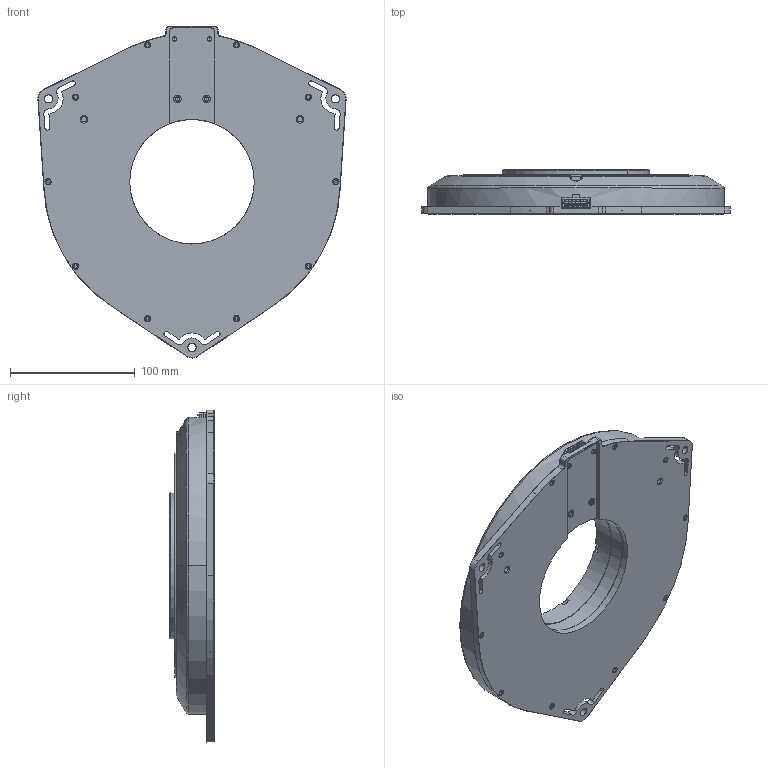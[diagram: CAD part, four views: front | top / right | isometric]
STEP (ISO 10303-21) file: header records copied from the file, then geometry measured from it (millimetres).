
FILE_DESCRIPTION((''),'2;1');
FILE_NAME('STM_DT238_568264_ASM','2026-04-13T12:21:21',('profile'),(''),'CREO PARAMETRIC BY PTC INC, 2025123','CREO PARAMETRIC BY PTC INC, 2025123','');
FILE_SCHEMA(('AP242_MANAGED_MODEL_BASED_3D_ENGINEERING_MIM_LF { 1 0 10303 442 1 1 4 }'));
Length unit declared in the file: millimetre
Products named in the file (5): STM_GRUND_568265; AL_ALUMINIUM; STM_INNEN_568271; STM_DT238_568264_ASM
Assembly tree (2 placements, depth 2):
  AL_ALUMINIUM
  AL_ALUMINIUM
  STM_DT238_568264_ASM
    STM_GRUND_568265
    STM_INNEN_568271
Bounding box: 247.33 x 35.45 x 266.47 mm (x, y, z)
Volume: 1096556.6 mm3; surface area: 152679.6 mm2
Topology: 2 solids, 2 shells, 908 faces, 2208 edges, 1398 vertices
Faces by surface type: plane 570, cylinder 192, cone 143, torus 3
Entity records: 40714 total; most frequent: CARTESIAN_POINT 4864, DIRECTION 4608, ORIENTED_EDGE 4376, PRESENTATION_STYLE_ASSIGNMENT 3104, STYLED_ITEM 2202, CURVE_STYLE 2200, EDGE_CURVE 2188, VECTOR 1594
